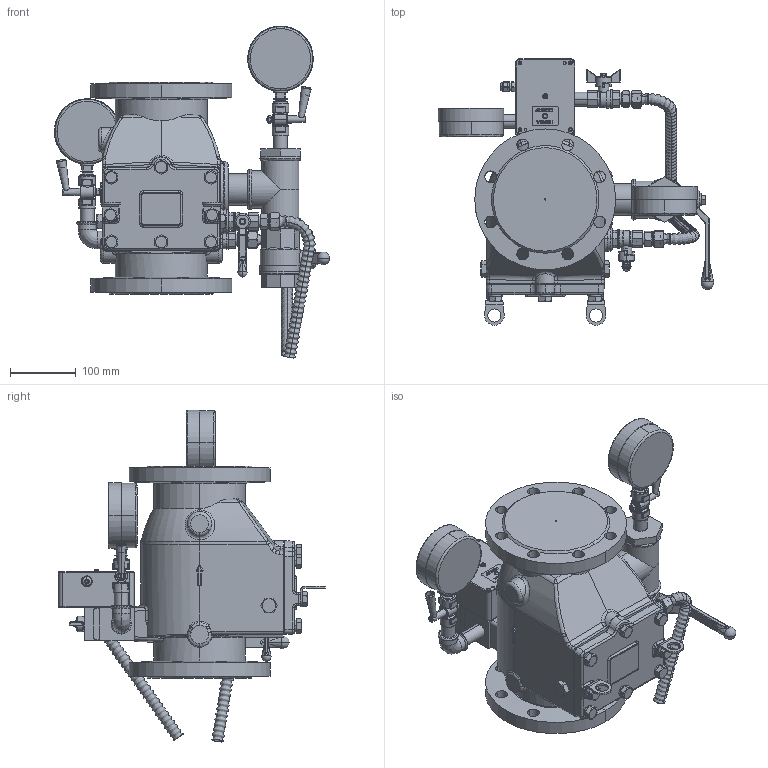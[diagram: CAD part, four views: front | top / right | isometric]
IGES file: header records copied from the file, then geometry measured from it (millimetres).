
Start section: File generated by T-FLEX CAD Version (null)
Global section: file name:                DN 100     _3D.igs; native system: T-FLEX CAD; date: 211013.152406; units: millimetre
Bounding box: 420 x 406.8 x 506.62 mm (x, y, z)
Volume: 11728242.3 mm3; surface area: 943812.3 mm2
Topology: 48 solids, 63 shells, 2881 faces, 7096 edges, 4236 vertices
Faces by surface type: plane 988, cylinder 919, bspline 405, cone 285, revolution 206, sphere 78
